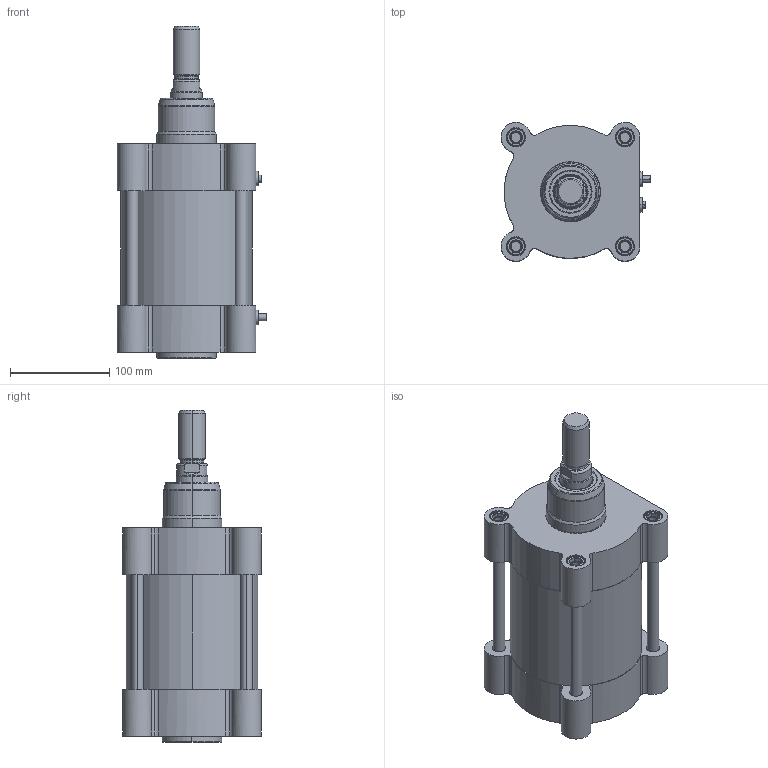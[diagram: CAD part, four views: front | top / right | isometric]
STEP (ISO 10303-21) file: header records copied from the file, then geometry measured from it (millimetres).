
FILE_DESCRIPTION (( 'STEP AP203' ), '1' );
FILE_NAME ('CTMI125-50.STEP', '2020-03-27T10:05:42', ( '' ), ( '' ), 'SwSTEP 2.0', 'SolidWorks 2019', '' );
FILE_SCHEMA (( 'CONFIG_CONTROL_DESIGN' ));
Length unit declared in the file: millimetre
Products named in the file (1): CTMI125-50
Bounding box: 151.1 x 140 x 335 mm (x, y, z)
Surface area: 350450.6 mm2 (no closed solid volume)
Topology: 0 solids, 23 shells, 767 faces, 1776 edges, 1092 vertices
Faces by surface type: cone 284, cylinder 218, plane 193, torus 56, bspline 16
Entity records: 35882 total; most frequent: CARTESIAN_POINT 20959, ORIENTED_EDGE 3504, DIRECTION 2178, EDGE_CURVE 1776, B_SPLINE_CURVE_WITH_KNOTS 1176, VERTEX_POINT 1092, AXIS2_PLACEMENT_3D 874, EDGE_LOOP 860
